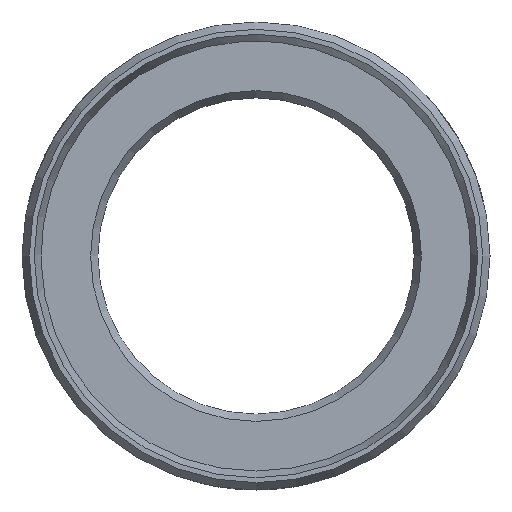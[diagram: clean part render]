
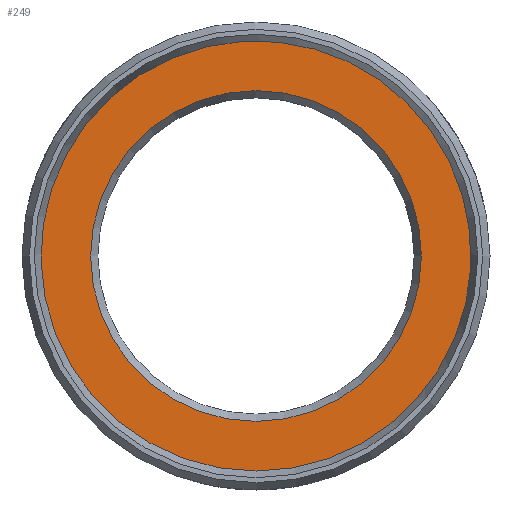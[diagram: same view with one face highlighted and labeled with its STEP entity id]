
A CAD part, left-side view. The second image highlights one B-rep face of the part: STEP entity #249.
In plain terms, the highlighted planar face has unit normal (-1, 0, 0).
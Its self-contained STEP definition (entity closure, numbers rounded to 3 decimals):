
#106=PLANE('',#985);
#249=ADVANCED_FACE('',(#309,#310),#106,.T.);
#309=FACE_BOUND('',#364,.T.);
#310=FACE_BOUND('',#365,.T.);
#364=EDGE_LOOP('',(#571));
#365=EDGE_LOOP('',(#572));
#571=ORIENTED_EDGE('',*,*,#816,.T.);
#572=ORIENTED_EDGE('',*,*,#815,.F.);
#701=VERTEX_POINT('',#1611);
#702=VERTEX_POINT('',#1614);
#815=EDGE_CURVE('',#701,#701,#881,.T.);
#816=EDGE_CURVE('',#702,#702,#882,.T.);
#881=CIRCLE('',#982,17.);
#882=CIRCLE('',#984,13.077);
#982=AXIS2_PLACEMENT_3D('',#1610,#1195,#1196);
#984=AXIS2_PLACEMENT_3D('',#1613,#1199,#1200);
#985=AXIS2_PLACEMENT_3D('',#1615,#1201,#1202);
#1195=DIRECTION('',(1.,0.,0.));
#1196=DIRECTION('',(0.,0.,-1.));
#1199=DIRECTION('',(1.,0.,0.));
#1200=DIRECTION('',(0.,0.,1.));
#1201=DIRECTION('',(-1.,0.,0.));
#1202=DIRECTION('',(0.,0.,1.));
#1610=CARTESIAN_POINT('',(0.,0.,0.));
#1611=CARTESIAN_POINT('',(0.,0.,-17.));
#1613=CARTESIAN_POINT('',(0.,0.,0.));
#1614=CARTESIAN_POINT('',(0.,0.,13.077));
#1615=CARTESIAN_POINT('',(0.,17.,0.));
